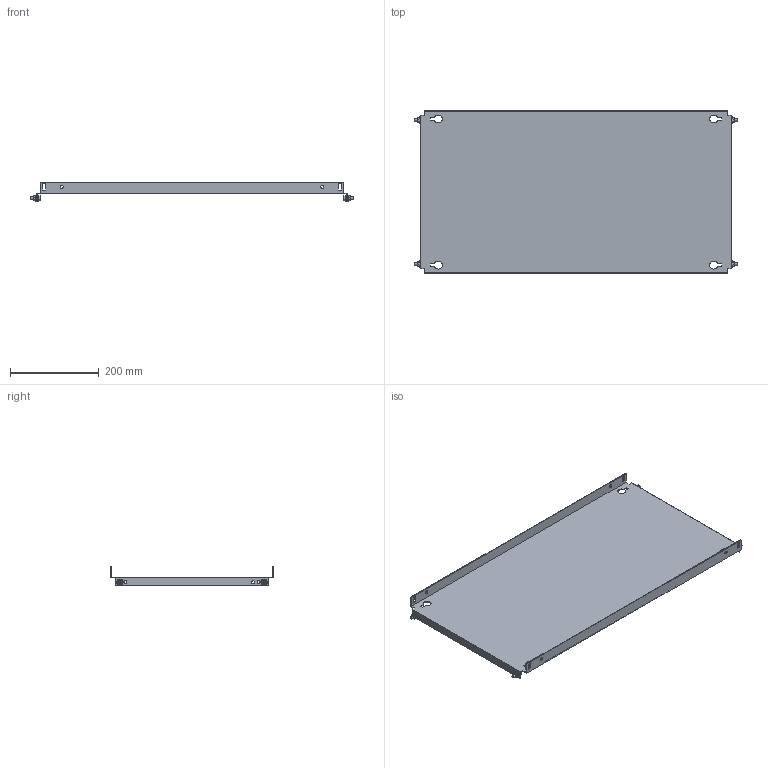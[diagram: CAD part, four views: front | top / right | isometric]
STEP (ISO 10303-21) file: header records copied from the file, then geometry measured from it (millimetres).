
FILE_DESCRIPTION(('Open CASCADE Model'),'2;1');
FILE_NAME('Open CASCADE Shape Model','2025-02-20T13:24:44',('Author'),( 'Open CASCADE'),'Open CASCADE STEP processor 7.8','Open CASCADE 7.8' ,'Unknown');
FILE_SCHEMA(('AUTOMOTIVE_DESIGN { 1 0 10303 214 1 1 1 1 }'));
Length unit declared in the file: millimetre
Products named in the file (4): Compound1; Solid1; Solid2; Solid3
Assembly tree (9 placements, depth 2):
  Compound1
    Solid1
    Solid2  x4
    Solid3  x4
Bounding box: 728 x 369 x 43 mm (x, y, z)
Volume: 606949.8 mm3; surface area: 612139.8 mm2
Topology: 9 solids, 9 shells, 308 faces, 753 edges, 467 vertices
Faces by surface type: plane 150, cone 68, bspline 48, cylinder 30, torus 12
Full cylindrical faces by diameter (mm): 5 x4, 6 x8, 7 x14
Entity records: 4930 total; most frequent: CARTESIAN_POINT 1377, ORIENTED_EDGE 756, DIRECTION 642, EDGE_CURVE 378, VERTEX_POINT 245, LINE 216, VECTOR 216, AXIS2_PLACEMENT_3D 213
